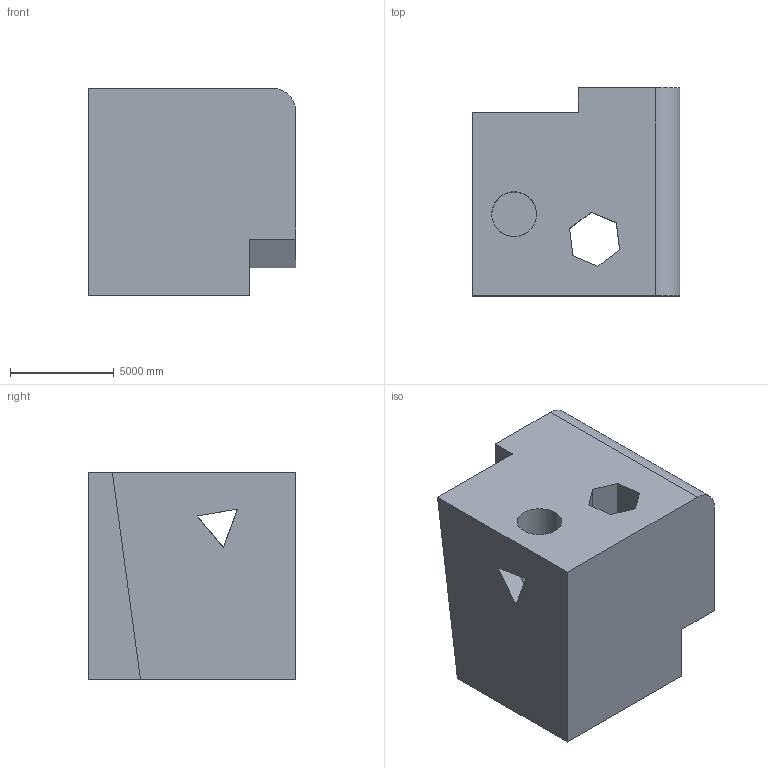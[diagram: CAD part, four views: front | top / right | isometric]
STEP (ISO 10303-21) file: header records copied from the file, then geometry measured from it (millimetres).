
FILE_DESCRIPTION (( 'STEP AP203' ), '1' );
FILE_NAME ('1556.STEP', '2022-08-25T15:08:39', ( 'user' ), ( '' ), 'SwSTEP 2.0', 'SolidWorks 2021', '' );
FILE_SCHEMA (( 'CONFIG_CONTROL_DESIGN' ));
Length unit declared in the file: centimetre
Products named in the file (1): 1556
Bounding box: 10000 x 10000 x 10000 mm (x, y, z)
Volume: 771948061057 mm3; surface area: 721470582.8 mm2
Topology: 1 solids, 1 shells, 28 faces, 87 edges, 58 vertices
Faces by surface type: plane 24, cylinder 4
Entity records: 1050 total; most frequent: CARTESIAN_POINT 198, ORIENTED_EDGE 174, DIRECTION 143, EDGE_CURVE 87, VECTOR 73, LINE 73, VERTEX_POINT 58, AXIS2_PLACEMENT_3D 35
